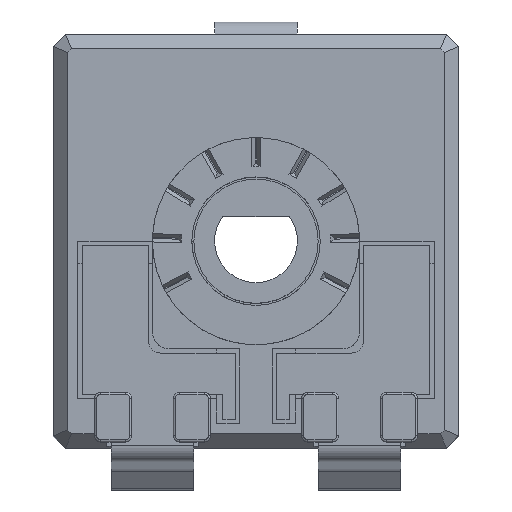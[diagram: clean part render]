
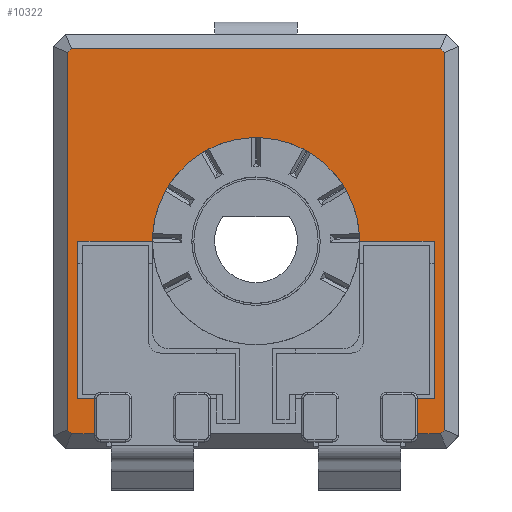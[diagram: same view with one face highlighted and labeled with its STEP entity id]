
A CAD part, top view. The second image highlights one B-rep face of the part: STEP entity #10322.
In plain terms, the highlighted planar face has unit normal (0, 0, 1).
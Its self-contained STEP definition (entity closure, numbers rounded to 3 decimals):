
#322=CIRCLE('',#11008,2.5);
#605=FACE_OUTER_BOUND('',#1140,.T.);
#1140=EDGE_LOOP('',(#7396,#7397,#7398,#7399,#7400,#7401,#7402,#7403,#7404,
#7405,#7406,#7407,#7408,#7409,#7410,#7411,#7412,#7413));
#1851=LINE('',#15174,#3077);
#1904=LINE('',#15390,#3130);
#1959=LINE('',#15510,#3185);
#1981=LINE('',#15554,#3207);
#1982=LINE('',#15556,#3208);
#1983=LINE('',#15558,#3209);
#1984=LINE('',#15560,#3210);
#1985=LINE('',#15562,#3211);
#1986=LINE('',#15564,#3212);
#1987=LINE('',#15566,#3213);
#1988=LINE('',#15568,#3214);
#1989=LINE('',#15569,#3215);
#1990=LINE('',#15571,#3216);
#1991=LINE('',#15573,#3217);
#1992=LINE('',#15575,#3218);
#1993=LINE('',#15579,#3219);
#1994=LINE('',#15580,#3220);
#3077=VECTOR('',#12177,10.);
#3130=VECTOR('',#12424,10.);
#3185=VECTOR('',#12539,10.);
#3207=VECTOR('',#12575,10.);
#3208=VECTOR('',#12576,10.);
#3209=VECTOR('',#12577,10.);
#3210=VECTOR('',#12578,10.);
#3211=VECTOR('',#12579,10.);
#3212=VECTOR('',#12580,10.);
#3213=VECTOR('',#12581,10.);
#3214=VECTOR('',#12582,10.);
#3215=VECTOR('',#12583,10.);
#3216=VECTOR('',#12584,10.);
#3217=VECTOR('',#12585,10.);
#3218=VECTOR('',#12586,10.);
#3219=VECTOR('',#12589,10.);
#3220=VECTOR('',#12590,10.);
#4279=VERTEX_POINT('',#15171);
#4280=VERTEX_POINT('',#15173);
#4345=VERTEX_POINT('',#15387);
#4346=VERTEX_POINT('',#15389);
#4381=VERTEX_POINT('',#15509);
#4396=VERTEX_POINT('',#15553);
#4397=VERTEX_POINT('',#15555);
#4398=VERTEX_POINT('',#15557);
#4399=VERTEX_POINT('',#15559);
#4400=VERTEX_POINT('',#15561);
#4401=VERTEX_POINT('',#15563);
#4402=VERTEX_POINT('',#15565);
#4403=VERTEX_POINT('',#15567);
#4404=VERTEX_POINT('',#15570);
#4405=VERTEX_POINT('',#15572);
#4406=VERTEX_POINT('',#15574);
#4407=VERTEX_POINT('',#15576);
#4408=VERTEX_POINT('',#15578);
#5338=EDGE_CURVE('',#4280,#4279,#1851,.T.);
#5446=EDGE_CURVE('',#4346,#4345,#1904,.T.);
#5508=EDGE_CURVE('',#4381,#4280,#1959,.T.);
#5531=EDGE_CURVE('',#4396,#4279,#1981,.T.);
#5532=EDGE_CURVE('',#4397,#4396,#1982,.T.);
#5533=EDGE_CURVE('',#4398,#4397,#1983,.T.);
#5534=EDGE_CURVE('',#4399,#4398,#1984,.T.);
#5535=EDGE_CURVE('',#4400,#4399,#1985,.T.);
#5536=EDGE_CURVE('',#4401,#4400,#1986,.T.);
#5537=EDGE_CURVE('',#4402,#4401,#1987,.T.);
#5538=EDGE_CURVE('',#4403,#4402,#1988,.T.);
#5539=EDGE_CURVE('',#4346,#4403,#1989,.T.);
#5540=EDGE_CURVE('',#4345,#4404,#1990,.T.);
#5541=EDGE_CURVE('',#4404,#4405,#1991,.T.);
#5542=EDGE_CURVE('',#4405,#4406,#1992,.T.);
#5543=EDGE_CURVE('',#4406,#4407,#322,.T.);
#5544=EDGE_CURVE('',#4407,#4408,#1993,.T.);
#5545=EDGE_CURVE('',#4408,#4381,#1994,.T.);
#7396=ORIENTED_EDGE('',*,*,#5338,.T.);
#7397=ORIENTED_EDGE('',*,*,#5531,.F.);
#7398=ORIENTED_EDGE('',*,*,#5532,.F.);
#7399=ORIENTED_EDGE('',*,*,#5533,.F.);
#7400=ORIENTED_EDGE('',*,*,#5534,.F.);
#7401=ORIENTED_EDGE('',*,*,#5535,.F.);
#7402=ORIENTED_EDGE('',*,*,#5536,.F.);
#7403=ORIENTED_EDGE('',*,*,#5537,.F.);
#7404=ORIENTED_EDGE('',*,*,#5538,.F.);
#7405=ORIENTED_EDGE('',*,*,#5539,.F.);
#7406=ORIENTED_EDGE('',*,*,#5446,.T.);
#7407=ORIENTED_EDGE('',*,*,#5540,.T.);
#7408=ORIENTED_EDGE('',*,*,#5541,.T.);
#7409=ORIENTED_EDGE('',*,*,#5542,.T.);
#7410=ORIENTED_EDGE('',*,*,#5543,.T.);
#7411=ORIENTED_EDGE('',*,*,#5544,.T.);
#7412=ORIENTED_EDGE('',*,*,#5545,.T.);
#7413=ORIENTED_EDGE('',*,*,#5508,.T.);
#9615=PLANE('',#11007);
#10322=ADVANCED_FACE('',(#605),#9615,.T.);
#11007=AXIS2_PLACEMENT_3D('',#15552,#12573,#12574);
#11008=AXIS2_PLACEMENT_3D('',#15577,#12587,#12588);
#12177=DIRECTION('',(0.,-1.,0.));
#12424=DIRECTION('',(0.,1.,0.));
#12539=DIRECTION('',(-1.,0.,0.));
#12573=DIRECTION('center_axis',(0.,0.,1.));
#12574=DIRECTION('ref_axis',(1.,0.,0.));
#12575=DIRECTION('',(-1.,0.,0.));
#12576=DIRECTION('',(-0.707,-0.707,0.));
#12577=DIRECTION('',(0.,-1.,0.));
#12578=DIRECTION('',(0.707,-0.707,0.));
#12579=DIRECTION('',(1.,0.,0.));
#12580=DIRECTION('',(0.707,0.707,0.));
#12581=DIRECTION('',(0.,1.,0.));
#12582=DIRECTION('',(-0.707,0.707,0.));
#12583=DIRECTION('',(-1.,0.,0.));
#12584=DIRECTION('',(-1.,0.,0.));
#12585=DIRECTION('',(0.,1.,0.));
#12586=DIRECTION('',(1.,0.,0.));
#12587=DIRECTION('center_axis',(0.,0.,-1.));
#12588=DIRECTION('ref_axis',(-1.,0.,0.));
#12589=DIRECTION('',(1.,0.,0.));
#12590=DIRECTION('',(0.,-1.,0.));
#15171=CARTESIAN_POINT('',(-22.548,-17.64,0.));
#15173=CARTESIAN_POINT('',(-22.548,-16.79,0.));
#15174=CARTESIAN_POINT('',(-22.548,-15.415,0.));
#15387=CARTESIAN_POINT('',(-30.348,-16.79,0.));
#15389=CARTESIAN_POINT('',(-30.348,-17.64,0.));
#15390=CARTESIAN_POINT('',(-30.348,-14.815,0.));
#15509=CARTESIAN_POINT('',(-22.148,-16.79,0.));
#15510=CARTESIAN_POINT('',(-24.648,-16.79,0.));
#15552=CARTESIAN_POINT('Origin',(-26.448,-12.99,0.));
#15553=CARTESIAN_POINT('',(-21.993,-17.64,0.));
#15554=CARTESIAN_POINT('',(-28.748,-17.64,0.));
#15555=CARTESIAN_POINT('',(-21.898,-17.545,0.));
#15556=CARTESIAN_POINT('',(-21.995,-17.643,0.));
#15557=CARTESIAN_POINT('',(-21.898,-8.435,0.));
#15558=CARTESIAN_POINT('',(-21.898,-15.34,0.));
#15559=CARTESIAN_POINT('',(-21.993,-8.34,0.));
#15560=CARTESIAN_POINT('',(-21.845,-8.488,0.));
#15561=CARTESIAN_POINT('',(-30.903,-8.34,0.));
#15562=CARTESIAN_POINT('',(-24.148,-8.34,0.));
#15563=CARTESIAN_POINT('',(-30.998,-8.435,0.));
#15564=CARTESIAN_POINT('',(-30.9,-8.338,0.));
#15565=CARTESIAN_POINT('',(-30.998,-17.545,0.));
#15566=CARTESIAN_POINT('',(-30.998,-10.64,0.));
#15567=CARTESIAN_POINT('',(-30.903,-17.64,0.));
#15568=CARTESIAN_POINT('',(-31.05,-17.493,0.));
#15569=CARTESIAN_POINT('',(-28.748,-17.64,0.));
#15570=CARTESIAN_POINT('',(-30.748,-16.79,0.));
#15571=CARTESIAN_POINT('',(-28.598,-16.79,0.));
#15572=CARTESIAN_POINT('',(-30.748,-12.99,0.));
#15573=CARTESIAN_POINT('',(-30.748,-12.99,0.));
#15574=CARTESIAN_POINT('',(-28.948,-12.99,0.));
#15575=CARTESIAN_POINT('',(-27.698,-12.99,0.));
#15576=CARTESIAN_POINT('',(-23.948,-12.99,0.));
#15577=CARTESIAN_POINT('Origin',(-26.448,-12.99,0.));
#15578=CARTESIAN_POINT('',(-22.148,-12.99,0.));
#15579=CARTESIAN_POINT('',(-24.298,-12.99,0.));
#15580=CARTESIAN_POINT('',(-22.148,-14.89,0.));
